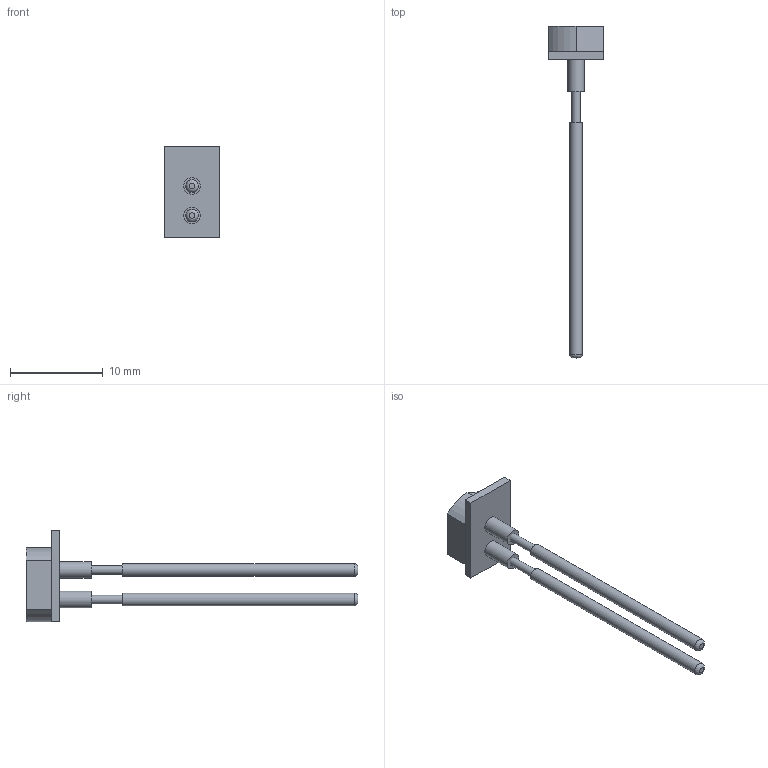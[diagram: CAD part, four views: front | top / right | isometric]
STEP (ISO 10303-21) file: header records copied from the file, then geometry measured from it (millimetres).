
FILE_DESCRIPTION(/* description */ (''),/* implementation_level */ '2;1');
FILE_NAME(/* name */ 'C:/Users/sorto/Downloads/FINN_RA_IR.step',/* time_stamp */ '2020-10-08T23:48:53-05:00',/* author */ (''),/* organization */ (''),/* preprocessor_version */ 'ST-DEVELOPER v18.1',/* originating_system */ 'Autodesk Translation Framework v9.3.0.1241',/* authorisation */ '');
FILE_SCHEMA (('AUTOMOTIVE_DESIGN { 1 0 10303 214 3 1 1 }'));
Length unit declared in the file: inch
Products named in the file (1): FINN_RA
Bounding box: 6 x 35.8 x 9.91 mm (x, y, z)
Volume: 261.3 mm3; surface area: 613.9 mm2
Topology: 6 solids, 6 shells, 44 faces, 83 edges, 54 vertices
Faces by surface type: plane 32, cylinder 10, bspline 2
Full cylindrical faces by diameter (mm): 0.914 x2, 1.367 x2, 1.778 x2
Entity records: 1190 total; most frequent: CARTESIAN_POINT 234, DIRECTION 195, ORIENTED_EDGE 166, EDGE_CURVE 83, AXIS2_PLACEMENT_3D 69, LINE 57, VECTOR 57, VERTEX_POINT 54
